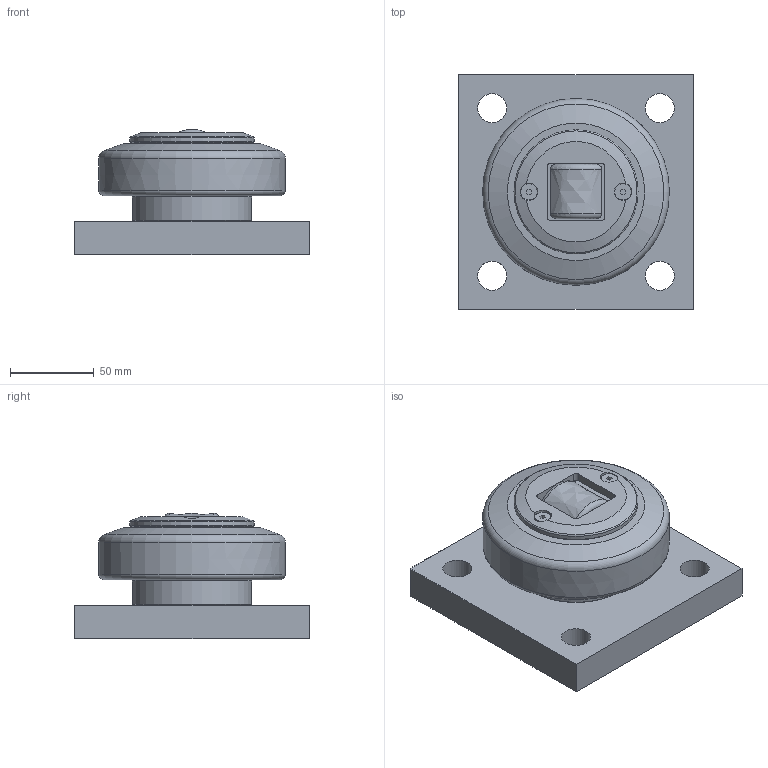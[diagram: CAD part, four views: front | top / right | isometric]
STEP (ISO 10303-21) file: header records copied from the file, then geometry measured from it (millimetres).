
FILE_DESCRIPTION(/* description */ ('-','CAx-IF Rec.Pracs.---Representation and Presentation of Product Manufacturing Information (PMI)---4.0---2014-10-13'),/* implementation_level */ '2;1');
FILE_NAME(/* name */ 'c:\temp\a468745f-c760-4810-8728-2999fdd41a48\9b78e8d2-03c9-4d55-8b8e-a8f74ef19728.stp',/* time_stamp */ '2020-04-01T16:49:44+02:00',/* author */ ('-'),/* organization */ ('NTI CADcenter A/S'),/* preprocessor_version */ 'ST-DEVELOPER v18',/* originating_system */ 'Autodesk Inventor 2020',/* authorisation */ '-');
FILE_SCHEMA (('AP242_MANAGED_MODEL_BASED_3D_ENGINEERING_MIM_LF { 1 0 10303 442 1 1 4 }'));
Length unit declared in the file: millimetre
Products named in the file (1): XTR 110.0300 BQ1000_Kontur
Bounding box: 140 x 140 x 74.95 mm (x, y, z)
Volume: 746176.8 mm3; surface area: 79788.4 mm2
Topology: 1 solids, 1 shells, 82 faces, 219 edges, 148 vertices
Faces by surface type: plane 40, cylinder 24, cone 11, torus 5, bspline 2
Full cylindrical faces by diameter (mm): 9.75 x2, 10.5 x2, 17.294 x4, 70.5 x1, 71 x1, 71.6 x1, 74 x1
Entity records: 2760 total; most frequent: CARTESIAN_POINT 594, DIRECTION 457, ORIENTED_EDGE 438, EDGE_CURVE 219, AXIS2_PLACEMENT_3D 173, VERTEX_POINT 148, LINE 111, VECTOR 111
